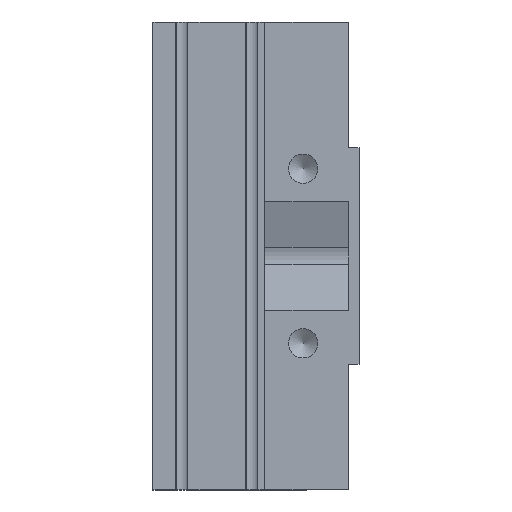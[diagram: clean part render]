
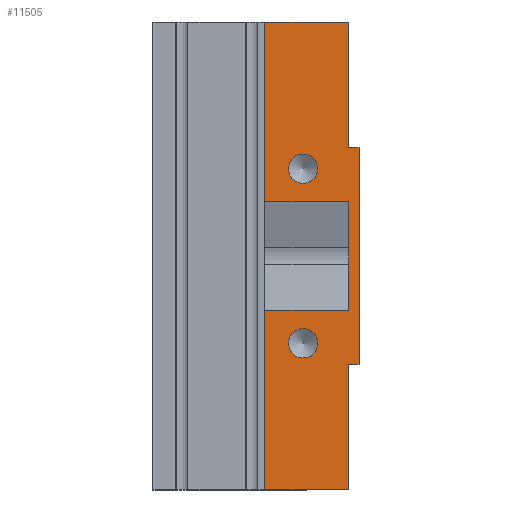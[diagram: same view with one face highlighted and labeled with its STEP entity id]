
A CAD part, left-side view. The second image highlights one B-rep face of the part: STEP entity #11505.
In plain terms, the highlighted planar face has unit normal (-1, 0, 0) as drawn and (1, 0, 0) by its records, which use the part's own axes.
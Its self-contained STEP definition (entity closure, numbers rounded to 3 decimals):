
#197 = EDGE_CURVE ( 'NONE', #10359, #20120, #9920, .T. ) ;
#675 = AXIS2_PLACEMENT_3D ( 'NONE', #6658, #23466, #14310 ) ;
#974 = DIRECTION ( 'NONE',  ( 0., 0., 1. ) ) ;
#1075 = LINE ( 'NONE', #18786, #5972 ) ;
#1376 = ORIENTED_EDGE ( 'NONE', *, *, #2280, .T. ) ;
#1439 = LINE ( 'NONE', #24022, #23052 ) ;
#1452 = VECTOR ( 'NONE', #13516, 1000. ) ;
#1838 = EDGE_CURVE ( 'NONE', #16632, #7442, #1877, .T. ) ;
#1877 = LINE ( 'NONE', #8031, #13441 ) ;
#1928 = EDGE_CURVE ( 'NONE', #9839, #9202, #12408, .T. ) ;
#2051 = CARTESIAN_POINT ( 'NONE',  ( 40., 0., 33.5 ) ) ;
#2280 = EDGE_CURVE ( 'NONE', #22446, #14695, #1439, .T. ) ;
#2282 = ORIENTED_EDGE ( 'NONE', *, *, #20499, .T. ) ;
#2436 = ORIENTED_EDGE ( 'NONE', *, *, #17173, .T. ) ;
#3171 = CARTESIAN_POINT ( 'NONE',  ( 40., 12., -33.5 ) ) ;
#3203 = DIRECTION ( 'NONE',  ( 0., 0., -1. ) ) ;
#3532 = PLANE ( 'NONE',  #9067 ) ;
#3949 = VECTOR ( 'NONE', #21732, 1000. ) ;
#4177 = CIRCLE ( 'NONE', #9779, 2.1 ) ;
#4180 = CARTESIAN_POINT ( 'NONE',  ( 40., 0., 15.5 ) ) ;
#4207 = CARTESIAN_POINT ( 'NONE',  ( 40., -1.5, 15.5 ) ) ;
#4563 = VECTOR ( 'NONE', #17025, 1000. ) ;
#4616 = CARTESIAN_POINT ( 'NONE',  ( 40., 0., 15.5 ) ) ;
#5972 = VECTOR ( 'NONE', #6861, 1000. ) ;
#6407 = EDGE_CURVE ( 'NONE', #15810, #10359, #14685, .T. ) ;
#6410 = LINE ( 'NONE', #14051, #9826 ) ;
#6658 = CARTESIAN_POINT ( 'NONE',  ( 40., 6.5, -12.5 ) ) ;
#6861 = DIRECTION ( 'NONE',  ( 0., 0., -1. ) ) ;
#7102 = VECTOR ( 'NONE', #23828, 1000. ) ;
#7183 = EDGE_LOOP ( 'NONE', ( #24663, #22431, #13586, #16128, #2282, #19193, #13246, #17458, #23512, #7556, #2436, #1376 ) ) ;
#7393 = CARTESIAN_POINT ( 'NONE',  ( 40., 0., -7.75 ) ) ;
#7442 = VERTEX_POINT ( 'NONE', #21442 ) ;
#7556 = ORIENTED_EDGE ( 'NONE', *, *, #1838, .T. ) ;
#8031 = CARTESIAN_POINT ( 'NONE',  ( 40., 12., -33.5 ) ) ;
#8489 = CARTESIAN_POINT ( 'NONE',  ( 40., 0., 7.75 ) ) ;
#8642 = DIRECTION ( 'NONE',  ( 0., -1., 0. ) ) ;
#9067 = AXIS2_PLACEMENT_3D ( 'NONE', #16596, #11196, #18615 ) ;
#9093 = EDGE_CURVE ( 'NONE', #21875, #20120, #9229, .T. ) ;
#9202 = VERTEX_POINT ( 'NONE', #4207 ) ;
#9229 = LINE ( 'NONE', #13007, #4563 ) ;
#9715 = EDGE_CURVE ( 'NONE', #19677, #19677, #4177, .T. ) ;
#9779 = AXIS2_PLACEMENT_3D ( 'NONE', #11053, #18730, #16841 ) ;
#9826 = VECTOR ( 'NONE', #8642, 1000. ) ;
#9839 = VERTEX_POINT ( 'NONE', #20073 ) ;
#9905 = CIRCLE ( 'NONE', #675, 2.1 ) ;
#9920 = LINE ( 'NONE', #15705, #7102 ) ;
#10261 = CARTESIAN_POINT ( 'NONE',  ( 40., -1.5, 20.25 ) ) ;
#10359 = VERTEX_POINT ( 'NONE', #18479 ) ;
#10536 = DIRECTION ( 'NONE',  ( 0., 0., 1. ) ) ;
#10553 = EDGE_CURVE ( 'NONE', #14275, #14275, #9905, .T. ) ;
#11053 = CARTESIAN_POINT ( 'NONE',  ( 40., 6.5, 12.5 ) ) ;
#11076 = CARTESIAN_POINT ( 'NONE',  ( 40., 12., 7.75 ) ) ;
#11196 = DIRECTION ( 'NONE',  ( 1., 0., 0. ) ) ;
#11505 = ADVANCED_FACE ( 'NONE', ( #22358, #13082, #12959 ), #3532, .T. ) ;
#11680 = VERTEX_POINT ( 'NONE', #19472 ) ;
#12081 = EDGE_CURVE ( 'NONE', #9839, #11680, #19293, .T. ) ;
#12408 = LINE ( 'NONE', #10261, #15835 ) ;
#12545 = EDGE_LOOP ( 'NONE', ( #21019 ) ) ;
#12959 = FACE_OUTER_BOUND ( 'NONE', #7183, .T. ) ;
#13007 = CARTESIAN_POINT ( 'NONE',  ( 40., 0., -7.75 ) ) ;
#13082 = FACE_BOUND ( 'NONE', #12545, .T. ) ;
#13246 = ORIENTED_EDGE ( 'NONE', *, *, #197, .T. ) ;
#13276 = VERTEX_POINT ( 'NONE', #24619 ) ;
#13441 = VECTOR ( 'NONE', #13676, 1000. ) ;
#13516 = DIRECTION ( 'NONE',  ( 0., 1., 0. ) ) ;
#13586 = ORIENTED_EDGE ( 'NONE', *, *, #12081, .T. ) ;
#13676 = DIRECTION ( 'NONE',  ( 0., 0., 1. ) ) ;
#14051 = CARTESIAN_POINT ( 'NONE',  ( 40., 0., 33.5 ) ) ;
#14275 = VERTEX_POINT ( 'NONE', #16156 ) ;
#14310 = DIRECTION ( 'NONE',  ( 0., 0., -1. ) ) ;
#14553 = CARTESIAN_POINT ( 'NONE',  ( 40., 28., 7.75 ) ) ;
#14685 = LINE ( 'NONE', #24447, #23388 ) ;
#14695 = VERTEX_POINT ( 'NONE', #4616 ) ;
#15705 = CARTESIAN_POINT ( 'NONE',  ( 40., 28., -7.75 ) ) ;
#15810 = VERTEX_POINT ( 'NONE', #3171 ) ;
#15835 = VECTOR ( 'NONE', #974, 1000. ) ;
#16128 = ORIENTED_EDGE ( 'NONE', *, *, #22137, .T. ) ;
#16156 = CARTESIAN_POINT ( 'NONE',  ( 40., 6.5, -14.6 ) ) ;
#16596 = CARTESIAN_POINT ( 'NONE',  ( 40., 0., 0. ) ) ;
#16632 = VERTEX_POINT ( 'NONE', #11076 ) ;
#16841 = DIRECTION ( 'NONE',  ( 0., 0., -1. ) ) ;
#17025 = DIRECTION ( 'NONE',  ( 0., 0., -1. ) ) ;
#17167 = CARTESIAN_POINT ( 'NONE',  ( 40., -13., -15.5 ) ) ;
#17173 = EDGE_CURVE ( 'NONE', #7442, #22446, #6410, .T. ) ;
#17458 = ORIENTED_EDGE ( 'NONE', *, *, #9093, .F. ) ;
#17734 = LINE ( 'NONE', #4180, #23977 ) ;
#18479 = CARTESIAN_POINT ( 'NONE',  ( 40., 12., -7.75 ) ) ;
#18615 = DIRECTION ( 'NONE',  ( 0., 0., -1. ) ) ;
#18730 = DIRECTION ( 'NONE',  ( 1., 0., 0. ) ) ;
#18786 = CARTESIAN_POINT ( 'NONE',  ( 40., 0., -15.5 ) ) ;
#19193 = ORIENTED_EDGE ( 'NONE', *, *, #6407, .T. ) ;
#19271 = ORIENTED_EDGE ( 'NONE', *, *, #10553, .F. ) ;
#19293 = LINE ( 'NONE', #17167, #1452 ) ;
#19472 = CARTESIAN_POINT ( 'NONE',  ( 40., 0., -15.5 ) ) ;
#19677 = VERTEX_POINT ( 'NONE', #21673 ) ;
#20073 = CARTESIAN_POINT ( 'NONE',  ( 40., -1.5, -15.5 ) ) ;
#20103 = LINE ( 'NONE', #23978, #3949 ) ;
#20120 = VERTEX_POINT ( 'NONE', #7393 ) ;
#20499 = EDGE_CURVE ( 'NONE', #13276, #15810, #20103, .T. ) ;
#21019 = ORIENTED_EDGE ( 'NONE', *, *, #9715, .F. ) ;
#21442 = CARTESIAN_POINT ( 'NONE',  ( 40., 12., 33.5 ) ) ;
#21490 = DIRECTION ( 'NONE',  ( 0., -1., 0. ) ) ;
#21613 = EDGE_LOOP ( 'NONE', ( #19271 ) ) ;
#21673 = CARTESIAN_POINT ( 'NONE',  ( 40., 6.5, 10.4 ) ) ;
#21732 = DIRECTION ( 'NONE',  ( 0., 1., 0. ) ) ;
#21875 = VERTEX_POINT ( 'NONE', #8489 ) ;
#22137 = EDGE_CURVE ( 'NONE', #11680, #13276, #1075, .T. ) ;
#22191 = DIRECTION ( 'NONE',  ( 0., -1., 0. ) ) ;
#22358 = FACE_BOUND ( 'NONE', #21613, .T. ) ;
#22431 = ORIENTED_EDGE ( 'NONE', *, *, #1928, .F. ) ;
#22446 = VERTEX_POINT ( 'NONE', #2051 ) ;
#22510 = EDGE_CURVE ( 'NONE', #14695, #9202, #17734, .T. ) ;
#22929 = VECTOR ( 'NONE', #22191, 1000. ) ;
#23052 = VECTOR ( 'NONE', #3203, 1000. ) ;
#23388 = VECTOR ( 'NONE', #10536, 1000. ) ;
#23466 = DIRECTION ( 'NONE',  ( 1., 0., 0. ) ) ;
#23512 = ORIENTED_EDGE ( 'NONE', *, *, #24628, .F. ) ;
#23582 = LINE ( 'NONE', #14553, #22929 ) ;
#23828 = DIRECTION ( 'NONE',  ( 0., -1., 0. ) ) ;
#23977 = VECTOR ( 'NONE', #21490, 1000. ) ;
#23978 = CARTESIAN_POINT ( 'NONE',  ( 40., 28., -33.5 ) ) ;
#24022 = CARTESIAN_POINT ( 'NONE',  ( 40., 0., 33.5 ) ) ;
#24447 = CARTESIAN_POINT ( 'NONE',  ( 40., 12., -33.5 ) ) ;
#24619 = CARTESIAN_POINT ( 'NONE',  ( 40., 0., -33.5 ) ) ;
#24628 = EDGE_CURVE ( 'NONE', #16632, #21875, #23582, .T. ) ;
#24663 = ORIENTED_EDGE ( 'NONE', *, *, #22510, .T. ) ;
